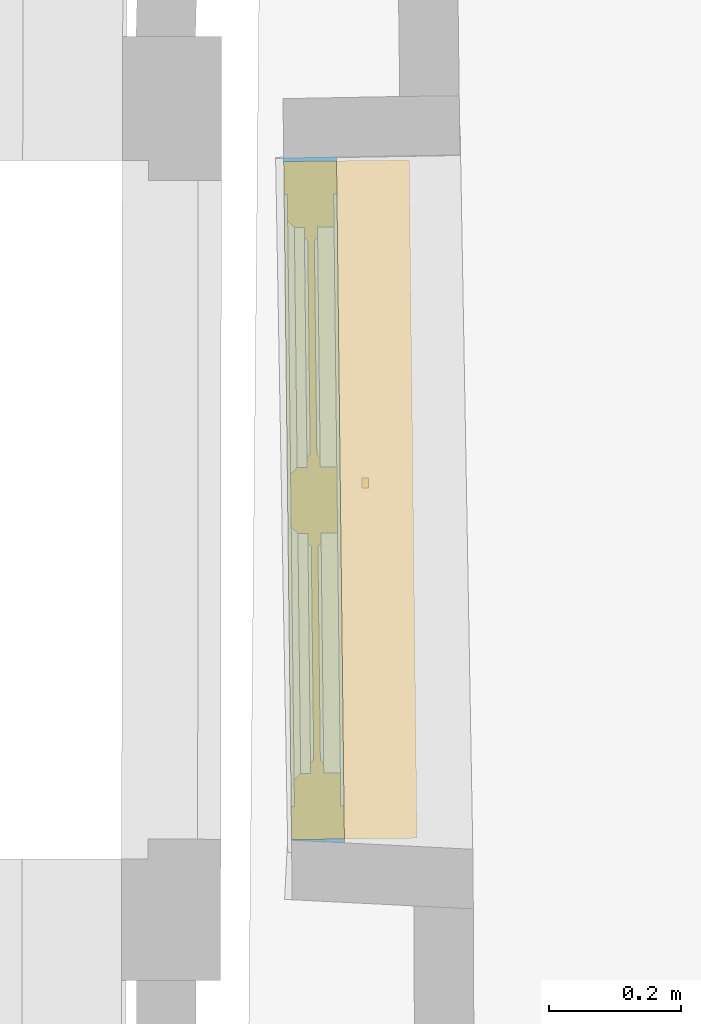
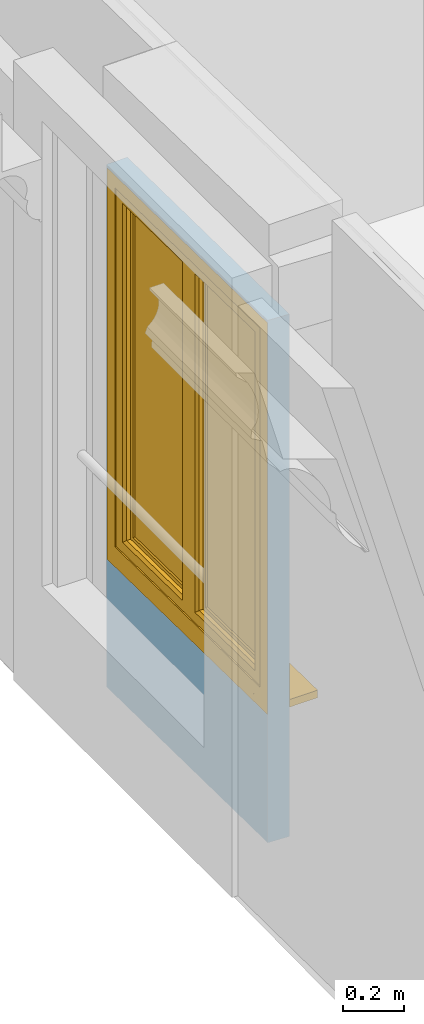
# One storey, part 48 of 72: 1 window, 1 opening, plus 1 element that does not belong to this part.
"""IFC2X3 building model written with IfcOpenShell, lengths in centimetres."""

import ifcopenshell
import ifcopenshell.guid

model = None  # the IFC model being written
_history = None  # IfcOwnerHistory: only IFC2X3 demands one
_inside = {}  # id of a spatial element -> (the spatial element, [elements in it])
_under = {}  # id of a project, library or spatial element -> (it, [spatial elements below it])
_declared = {}  # id of a project -> (the project, [libraries it declares])
_typed = {}  # id of a type object -> (the type object, [elements of that type])
_made_of = {}  # id of a material, layer set ... -> (it, [elements and type objects made of it])


def new_model(schema):
    """Start an empty IFC model of exactly this schema.

    Asked for "IFC4X3", IfcOpenShell would pick the latest addendum, in which some entities
    have other attributes; the version numbers below select the first issue.
    IFC2X3 requires an IfcOwnerHistory on every rooted entity: one is made here for all.
    """
    global model, _history
    if schema == "IFC4X3":
        model = ifcopenshell.file(schema_version=(4, 3, 0, 0))
    else:
        model = ifcopenshell.file(schema=schema)
    _inside.clear()
    _under.clear()
    _declared.clear()
    _typed.clear()
    _made_of.clear()
    _history = None
    if model.schema == "IFC2X3":
        org = make("IfcOrganization", Name="unknown")
        user = make(
            "IfcPersonAndOrganization",
            ThePerson=make("IfcPerson", FamilyName="unknown"),
            TheOrganization=org,
        )
        app = make(
            "IfcApplication",
            ApplicationDeveloper=org,
            Version="unknown",
            ApplicationFullName="unknown",
            ApplicationIdentifier="unknown",
        )
        _history = make(
            "IfcOwnerHistory",
            OwningUser=user,
            OwningApplication=app,
            ChangeAction="ADDED",
            CreationDate=0,
        )
    return model


def make(cls, **values):
    """One entity of the class cls with the attributes given. An attribute that is None is left unset."""
    return model.create_entity(
        cls, **{name: value for name, value in values.items() if value is not None}
    )


def entity(cls, *values):
    """Any entity or typed value of the class cls, its attributes in the order of the schema. None: left unset."""
    e = model.create_entity(cls)
    for i, value in enumerate(values):
        if value is not None:
            e[i] = value
    return e


def rooted(cls, **values):
    """An entity with a GlobalId (a new one), such as an element, a storey or a relation."""
    return make(cls, GlobalId=ifcopenshell.guid.new(), OwnerHistory=_history, **values)


def si_unit(unit_type, name, prefix=None):
    """IfcSIUnit, for example si_unit("LENGTHUNIT", "METRE", prefix="MILLI")."""
    return make("IfcSIUnit", UnitType=unit_type, Prefix=prefix, Name=name)


def converted_unit(unit_type, name, factor, base, dimensions=None, offset=None):
    """IfcConversionBasedUnit, such as the inch: factor (a typed value) times the base unit."""
    return make(
        "IfcConversionBasedUnit"
        if offset is None
        else "IfcConversionBasedUnitWithOffset",
        ConversionOffset=offset,
        Dimensions=None
        if dimensions is None
        else entity("IfcDimensionalExponents", *dimensions),
        UnitType=unit_type,
        Name=name,
        ConversionFactor=make(
            "IfcMeasureWithUnit", ValueComponent=factor, UnitComponent=base
        ),
    )


def assignment(units):
    """IfcUnitAssignment: the units of a project."""
    return None if units is None else make("IfcUnitAssignment", Units=units)


def point(xyz):
    """IfcCartesianPoint."""
    return None if xyz is None else make("IfcCartesianPoint", Coordinates=xyz)


def direction(xyz):
    """IfcDirection."""
    return None if xyz is None else make("IfcDirection", DirectionRatios=xyz)


def frame(location, z_axis=None, x_axis=None):
    """IfcAxis2Placement3D, a coordinate frame: its origin and axes. An axis left out is left unset."""
    return make(
        "IfcAxis2Placement3D",
        Location=point(location),
        Axis=direction(z_axis),
        RefDirection=direction(x_axis),
    )


def origin():
    """The frame at (0, 0, 0) with its axes left unset."""
    return frame((0.0, 0.0, 0.0))


def origin_with_axes():
    """The frame at (0, 0, 0) with the z axis (0, 0, 1) and the x axis (1, 0, 0) written out."""
    return frame((0.0, 0.0, 0.0), z_axis=(0.0, 0.0, 1.0), x_axis=(1.0, 0.0, 0.0))


def place(relative_to, where):
    """IfcLocalPlacement: puts the frame where relative to a parent placement (None: the world)."""
    return make(
        "IfcLocalPlacement", PlacementRelTo=relative_to, RelativePlacement=where
    )


def context(
    kind, dimensions, precision=None, world=None, true_north=None, identifier=None
):
    """IfcGeometricRepresentationContext, for example the 3D "Model" context."""
    return make(
        "IfcGeometricRepresentationContext",
        ContextIdentifier=identifier,
        ContextType=kind,
        CoordinateSpaceDimension=dimensions,
        Precision=precision,
        WorldCoordinateSystem=world,
        TrueNorth=true_north,
    )


def subcontext(parent, identifier, kind, view, scale=None):
    """IfcGeometricRepresentationSubContext, for example "Body" below "Model"."""
    return make(
        "IfcGeometricRepresentationSubContext",
        ContextIdentifier=identifier,
        ContextType=kind,
        ParentContext=parent,
        TargetScale=scale,
        TargetView=view,
    )


def project(units=None, contexts=None):
    """IfcProject with its units and contexts."""
    return rooted(
        "IfcProject",
        Name="project",
        RepresentationContexts=contexts,
        UnitsInContext=assignment(units),
    )


def spatial(cls, under=None, at=None, **own):
    """A site, building, storey or space (cls), placed at a placement, below another one or the project."""
    s = rooted(cls, ObjectPlacement=at, **own)
    if under is not None:
        _under.setdefault(under.id(), (under, []))[1].append(s)
    return s


def polyline(points):
    """IfcPolyline through the points."""
    return make("IfcPolyline", Points=[point(p) for p in points])


def outline(outer, holes=None, kind="AREA"):
    """IfcArbitraryClosedProfileDef: a profile drawn as a closed curve; with holes, ...WithVoids."""
    if holes is None:
        return make("IfcArbitraryClosedProfileDef", ProfileType=kind, OuterCurve=outer)
    return make(
        "IfcArbitraryProfileDefWithVoids",
        ProfileType=kind,
        OuterCurve=outer,
        InnerCurves=holes,
    )


def extrude(swept, where, along, depth):
    """IfcExtrudedAreaSolid: the profile swept, set in the frame where, extruded along a direction by depth."""
    return make(
        "IfcExtrudedAreaSolid",
        SweptArea=swept,
        Position=where,
        ExtrudedDirection=direction(along),
        Depth=depth,
    )


def faces_of(points, faces, orient=None, outer=None):
    """IfcFace entities. A face is a list of loops; a loop is a list of indices into points, from 0.

    orient and outer hold one flag for each loop. By default every Orientation is true, the
    first loop of a face is its IfcFaceOuterBound and the others are IfcFaceBound.
    """
    made = []
    for i, loops in enumerate(faces):
        bounds = []
        for j, loop in enumerate(loops):
            is_outer = j == 0 if outer is None else outer[i][j]
            bounds.append(
                make(
                    "IfcFaceOuterBound" if is_outer else "IfcFaceBound",
                    Bound=make("IfcPolyLoop", Polygon=[points[k] for k in loop]),
                    Orientation=True if orient is None else orient[i][j],
                )
            )
        made.append(make("IfcFace", Bounds=bounds))
    return made


def faceted_brep(points, faces, orient=None, outer=None, voids=None):
    """IfcFacetedBrep: a solid bounded by flat faces; with voids (closed shells), ...WithVoids."""
    shared = [point(p) for p in points]
    hull = make("IfcClosedShell", CfsFaces=faces_of(shared, faces, orient, outer))
    if voids is None:
        return make("IfcFacetedBrep", Outer=hull)
    return make(
        "IfcFacetedBrepWithVoids",
        Outer=hull,
        Voids=[
            make(cls, CfsFaces=faces_of(shared, fs, o, b)) for cls, fs, o, b in voids
        ],
    )


def shape(context_of_items, identifier, shape_type, items):
    """IfcShapeRepresentation: the items that make up one representation, for example the "Body"."""
    return make(
        "IfcShapeRepresentation",
        ContextOfItems=context_of_items,
        RepresentationIdentifier=identifier,
        RepresentationType=shape_type,
        Items=items,
    )


def material(Name=None, Category=None):
    """IfcMaterial."""
    return make("IfcMaterial", Name=Name, Category=Category)


def material_list(materials):
    """IfcMaterialList."""
    return make("IfcMaterialList", Materials=materials)


def layer(
    of_material, thickness, ventilated=None, Name=None, Category=None, Priority=None
):
    """IfcMaterialLayer: one layer of a wall or slab, of a material (None: an air gap)."""
    return make(
        "IfcMaterialLayer",
        Material=of_material,
        LayerThickness=thickness,
        IsVentilated=ventilated,
        Name=Name,
        Category=Category,
        Priority=Priority,
    )


def layer_set(layers, Name=None):
    """IfcMaterialLayerSet."""
    return make("IfcMaterialLayerSet", MaterialLayers=layers, LayerSetName=Name)


def layer_usage(for_layer_set, set_direction, sense, offset, extent=None):
    """IfcMaterialLayerSetUsage: how a layer set lies in its element."""
    return make(
        "IfcMaterialLayerSetUsage",
        ForLayerSet=for_layer_set,
        LayerSetDirection=set_direction,
        DirectionSense=sense,
        OffsetFromReferenceLine=offset,
        ReferenceExtent=extent,
    )


def made_of(thing, what):
    """Note that an element or type object is made of a material, layer set ...; save() writes the relation."""
    if what is not None:
        _made_of.setdefault(what.id(), (what, []))[1].append(thing)
    return thing


def type_object(cls, material=None, **own):
    """A type object (cls), such as IfcWallType, which elements share."""
    return made_of(rooted(cls, **own), material)


def element(
    cls,
    number,
    at=None,
    inside=None,
    cuts=None,
    type_object=None,
    material=None,
    context=None,
    identifier="Body",
    shape_type=None,
    held_by="IfcProductDefinitionShape",
    body=None,
    shapes=None,
    **own,
):
    """One element of the class cls, such as IfcWall. Its Tag is "e" and its number.

    at: its placement. inside: the storey or other place that contains it. cuts: it is an
    opening in that element (IfcRelVoidsElement). A single representation is given by context,
    identifier, shape_type and body (its items); several are given by shapes. held_by: the class
    of the entity that holds the representations. save() writes the other relations.
    """
    e = rooted(cls, Tag="e%d" % number, ObjectPlacement=at, **own)
    if body is not None:
        shapes = [shape(context, identifier, shape_type, body)]
    if shapes is not None:
        e.Representation = make(held_by, Representations=shapes)
    if inside is not None:
        _inside.setdefault(inside.id(), (inside, []))[1].append(e)
    if cuts is not None:
        rooted(
            "IfcRelVoidsElement", RelatingBuildingElement=cuts, RelatedOpeningElement=e
        )
    if type_object is not None:
        _typed.setdefault(type_object.id(), (type_object, []))[1].append(e)
    return made_of(e, material)


def fill(opening, filler):
    """IfcRelFillsElement: the door or window that sits in an opening."""
    return rooted(
        "IfcRelFillsElement",
        RelatingOpeningElement=opening,
        RelatedBuildingElement=filler,
    )


def aggregate(whole, parts):
    """IfcRelAggregates: a whole, such as a stair, and the parts it consists of."""
    return rooted("IfcRelAggregates", RelatingObject=whole, RelatedObjects=parts)


def save(model, path):
    """Write the relations noted so far, then the file.

    IfcRelAggregates (storeys below a building ...), IfcRelContainedInSpatialStructure (elements
    in a storey), IfcRelDefinesByType, IfcRelAssociatesMaterial and IfcRelDeclares: one each for
    every whole, place, type object, material and project.
    """
    for whole, parts in _under.values():
        aggregate(whole, parts)
    for where, things in _inside.values():
        rooted(
            "IfcRelContainedInSpatialStructure",
            RelatedElements=things,
            RelatingStructure=where,
        )
    for kind, things in _typed.values():
        rooted("IfcRelDefinesByType", RelatedObjects=things, RelatingType=kind)
    for what, things in _made_of.values():
        rooted("IfcRelAssociatesMaterial", RelatedObjects=things, RelatingMaterial=what)
    for by, libraries in _declared.values():
        rooted("IfcRelDeclares", RelatingContext=by, RelatedDefinitions=libraries)
    model.write(path)


model = new_model("IFC2X3")

# Units and contexts
model_context = context("Model", 3, precision=0.0001, world=origin(), true_north=direction((0.225632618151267, 0.974212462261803, 0.0)))
body_context = subcontext(model_context, "Body", "Model", "MODEL_VIEW")
footprint_context = subcontext(model_context, "FootPrint", "Model", "MODEL_VIEW")
profile_context = subcontext(model_context, "Profile", "Model", "MODEL_VIEW")
ifc_project = project(units=[si_unit("LENGTHUNIT", "METRE", prefix="CENTI"), si_unit("AREAUNIT", "SQUARE_METRE", prefix="CENTI"), si_unit("VOLUMEUNIT", "CUBIC_METRE", prefix="CENTI"), converted_unit("PLANEANGLEUNIT", "DEGREE", entity("IfcRatioMeasure", 0.0174532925), si_unit("PLANEANGLEUNIT", "RADIAN"), dimensions=[0, 0, 0, 0, 0, 0, 0])], contexts=[model_context])

# Site, building, storey
site_placement = place(None, origin_with_axes())
site = spatial("IfcSite", under=ifc_project, at=site_placement, Name="Default Site", CompositionType="ELEMENT")
building_placement = place(site_placement, origin_with_axes())
building = spatial("IfcBuilding", under=site, at=building_placement, Name="Default Building", CompositionType="ELEMENT")
storey_placement = place(building_placement, frame((0.0, 0.0, 853.910374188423), z_axis=(0.0, 0.0, 1.0), x_axis=(1.0, 0.0, 0.0)))
storey = spatial("IfcBuildingStorey", under=building, at=storey_placement, Name="Niveau 2", CompositionType="ELEMENT", Elevation=853.910374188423)

# Wall, opening, window
ifc_material_1 = material(Name="<aucun>")
ifc_layer = layer(ifc_material_1, 8.0)
ifc_layer_set = layer_set([ifc_layer], Name="default")
ifc_layer_usage = layer_usage(ifc_layer_set, "AXIS2", "POSITIVE", -4.0)
wall_type = type_object("IfcWallType", Name="default 80", PredefinedType="NOTDEFINED", material=ifc_layer_set)
wall_placement = place(storey_placement, frame((-1230.09944042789, 409.144526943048, 1.4210854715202e-12), z_axis=(0.0, 0.0, 1.0), x_axis=(-0.0115145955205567, 0.999933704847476, 0.0)))
wall = element("IfcWallStandardCase", 1, at=wall_placement, inside=storey, type_object=wall_type, material=ifc_layer_usage, Name="Enveloppe 170861", context=body_context, shape_type="SweptSolid", body=[
    extrude(outline(polyline([(103.241770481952, 4.00000000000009), (0.0, 4.00000000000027), (-0.490794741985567, -3.99999999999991), (103.299633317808, -4.00000000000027), (103.241770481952, 4.00000000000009)])), origin_with_axes(), (0.0, 0.0, 1.0), 208.0),
])
opening_placement = place(wall_placement, frame((0.0895585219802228, 0.0, 53.9999999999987), z_axis=(0.0, 0.0, 1.0), x_axis=(-1.0, 4.50334214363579e-15, 0.0)))
cartesian_point_1 = entity("IfcCartesianPoint", [0.0, 0.0, 153.0])
cartesian_point_2 = entity("IfcCartesianPoint", [-102.647776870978, -4.00000000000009])
opening = element("IfcOpeningElement", 2, at=opening_placement, cuts=wall, Name="4294966523_11", ObjectType="Opening", shapes=[
    shape(body_context, "Body", "SweptSolid", [extrude(outline(polyline([(8.88178419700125e-14, 153.0), (8.88178419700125e-14, -3.00000000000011), (102.647776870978, -3.00000000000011), (102.647776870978, 153.0), (8.88178419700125e-14, 153.0)])), frame((0.0, -14.0, 0.0), z_axis=(0.0, 1.0, 0.0), x_axis=(-1.0, 0.0, 0.0)), (0.0, 0.0, 1.0), 28.0)]),
    shape(profile_context, "Profile", "GeometricCurveSet", [entity("IfcGeometricCurveSet", [entity("IfcPolyline", [cartesian_point_1, entity("IfcCartesianPoint", [0.0, 0.0, -1.77635683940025e-13]), entity("IfcCartesianPoint", [-102.647776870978, -1.77635683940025e-13, -1.77635683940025e-13]), entity("IfcCartesianPoint", [-102.647776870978, -1.77635683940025e-13, 153.0]), cartesian_point_1])])]),
    shape(footprint_context, "FootPrint", "GeometricCurveSet", [entity("IfcGeometricCurveSet", [entity("IfcPolyline", [cartesian_point_2, entity("IfcCartesianPoint", [-8.88178419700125e-14, -4.00000000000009]), entity("IfcCartesianPoint", [-8.88178419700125e-14, 3.99999999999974]), entity("IfcCartesianPoint", [-102.647776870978, 3.99999999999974]), cartesian_point_2])])]),
])
ifc_material_2 = material(Name="Transparent")
ifc_material_3 = material(Name="Bleu france")
ifc_material_4 = material(Name="Brèche oniciata")
ifc_material_5 = material(Name="Aluminium satiné")
ifc_material_list = material_list([ifc_material_2, ifc_material_3, ifc_material_4, ifc_material_5])
window_style = type_object("IfcWindowStyle", Name="FN[R] 2VB[1V] MM", ConstructionType="NOTDEFINED", OperationType="DOUBLE_PANEL_VERTICAL", ParameterTakesPrecedence=True, Sizeable=False, material=ifc_material_list)
window_placement = place(opening_placement, frame((-102.647776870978, -4.00000000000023, -7.105427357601e-15), z_axis=(0.0, 0.0, 1.0), x_axis=(1.0, 0.0, 0.0)))
window = element("IfcWindow", 3, at=window_placement, inside=storey, type_object=window_style, material=ifc_material_list, Name="Fenêtre 171997", OverallHeight=153.0, OverallWidth=102.647776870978, context=body_context, shape_type="Brep", body=[
    faceted_brep([(-1.56433159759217e-06, 1.91187014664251e-05, -2.7203559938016e-05), (102.647765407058, -3.98226472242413e-05, -2.7203559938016e-05), (102.647757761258, 8.00000616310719, -2.7203559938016e-05), (102.647770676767, 19.0000333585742, -2.7203559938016e-05), (2.60725947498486e-06, 18.9999969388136, -2.7203559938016e-05), (-1.03082488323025e-05, 7.99996974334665, -2.7203559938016e-05), (-1.03082488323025e-05, 7.99996974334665, -3.00000050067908), (2.60725947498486e-06, 18.9999969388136, -3.00000050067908), (102.647770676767, 19.0000333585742, -3.00000050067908), (102.647757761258, 8.00000616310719, -3.00000050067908), (102.647765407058, -3.98226472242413e-05, -3.00000050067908), (-1.56433159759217e-06, 1.91187014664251e-05, -3.00000050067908), (-1.03084567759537e-05, 18.9999969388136, -2.7203559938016e-05), (-1.03084567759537e-05, 18.9999969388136, -3.00000050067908), (102.647770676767, 18.9999969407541, -2.7203559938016e-05), (102.647770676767, 18.9999969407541, -3.00000050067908), (102.647770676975, 8.00000616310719, -2.7203559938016e-05), (102.647770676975, 8.00000616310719, -3.00000050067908), (102.64775776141, -3.98226472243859e-05, -2.7203559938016e-05), (102.64775776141, -3.98226472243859e-05, -3.00000050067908), (-1.56433159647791e-06, -3.98245876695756e-05, -2.7203559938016e-05), (-1.56433159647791e-06, -3.98245876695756e-05, -3.00000050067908), (-1.56448282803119e-06, 7.99996974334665, -2.7203559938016e-05), (-1.56448282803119e-06, 7.99996974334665, -3.00000050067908)], [[[0, 1, 2, 3, 4, 5]], [[6, 7, 8, 9, 10, 11]], [[5, 12, 13, 6]], [[4, 14, 15, 7]], [[3, 16, 17, 8]], [[2, 18, 19, 9]], [[1, 20, 21, 10]], [[0, 22, 23, 11]]]),
    faceted_brep([(97.6477779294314, 8.94068818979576e-08, 148.000001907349), (97.6477779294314, 7.99999991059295, 148.000001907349), (97.6477779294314, 7.99999991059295, 5.00000007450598), (97.6477779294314, 8.94068818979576e-08, 5.00000007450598), (102.647779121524, 7.99999991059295, 152.999997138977), (102.647779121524, 7.99999991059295, 3.5527136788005e-13), (102.647779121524, 8.94068818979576e-08, 152.999997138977), (102.647779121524, 8.94068818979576e-08, 3.5527136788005e-13), (4.99999894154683, 7.99999991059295, 5.00000007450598), (4.99999894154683, 8.94068818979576e-08, 5.00000007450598), (-2.25054606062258e-06, 7.99999991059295, 3.5527136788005e-13), (-2.25054606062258e-06, 8.94068818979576e-08, 3.5527136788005e-13), (4.99999894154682, 7.99999991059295, 148.000001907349), (4.99999894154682, 8.94068818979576e-08, 148.000001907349), (-2.25054606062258e-06, 7.99999991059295, 152.999997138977), (4.99999894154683, 7.99999991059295, 148.000001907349), (-2.25054606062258e-06, 8.94068818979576e-08, 152.999997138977), (4.99999894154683, 8.94068818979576e-08, 148.000001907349)], [[[0, 1, 2, 3]], [[1, 4, 5, 2]], [[4, 6, 7, 5]], [[6, 0, 3, 7]], [[3, 2, 8, 9]], [[2, 5, 10, 8]], [[5, 7, 11, 10]], [[7, 3, 9, 11]], [[9, 8, 12, 13]], [[8, 10, 14, 15]], [[10, 11, 16, 14]], [[11, 9, 17, 16]], [[17, 15, 1, 0]], [[15, 14, 4, 1]], [[14, 16, 6, 4]], [[16, 17, 0, 6]]]),
    faceted_brep([(93.6477757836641, 0.499999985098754, 144.000005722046), (92.6477762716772, 1.49999949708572, 142.999994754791), (92.6477762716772, 1.49999949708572, 10.0000001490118), (93.6477757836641, 0.499999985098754, 9.00000035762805), (92.6477767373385, 1.49999996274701, 142.999994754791), (92.6477767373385, 7.50000001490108, 142.999994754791), (92.6477767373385, 7.50000001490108, 10.0000001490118), (92.6477767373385, 1.49999996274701, 10.0000001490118), (97.6477779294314, 7.50000001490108, 148.000001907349), (97.6477779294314, 7.50000001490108, 5.00000007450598), (97.6477779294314, 0.499999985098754, 148.000001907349), (97.6477779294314, 0.499999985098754, 5.00000007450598), (92.6477767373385, 1.49999986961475, 10.000000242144), (56.3238885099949, 1.49999986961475, 10.0000002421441), (55.3238883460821, 0.499999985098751, 9.00000035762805), (56.3238885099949, 7.50000001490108, 10.0000001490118), (56.3238885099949, 1.49999996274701, 10.0000001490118), (51.3238884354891, 7.50000001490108, 5.00000007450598), (51.3238884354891, 0.499999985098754, 5.00000007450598), (55.3238883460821, 0.499999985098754, 9.00000035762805), (56.3238884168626, 1.50000005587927, 10.0000001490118), (56.3238884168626, 1.50000005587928, 142.999994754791), (55.3238883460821, 0.499999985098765, 144.000005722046), (56.3238885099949, 7.50000001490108, 142.999994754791), (56.3238885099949, 1.49999996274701, 142.999994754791), (51.323888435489, 7.50000001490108, 148.000001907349), (51.323888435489, 0.499999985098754, 148.000001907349), (55.3238883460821, 0.499999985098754, 144.000005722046), (56.3238885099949, 1.50000545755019, 143.000000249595), (92.6477767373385, 1.50000545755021, 143.000000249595)], [[[0, 1, 2, 3]], [[4, 5, 6, 7]], [[5, 8, 9, 6]], [[8, 10, 11, 9]], [[10, 0, 3, 11]], [[3, 12, 13, 14]], [[7, 6, 15, 16]], [[6, 9, 17, 15]], [[9, 11, 18, 17]], [[11, 3, 19, 18]], [[19, 20, 21, 22]], [[16, 15, 23, 24]], [[15, 17, 25, 23]], [[17, 18, 26, 25]], [[18, 19, 27, 26]], [[27, 28, 29, 0]], [[24, 23, 5, 4]], [[23, 25, 8, 5]], [[25, 26, 10, 8]], [[26, 27, 0, 10]]]),
    faceted_brep([(91.1477781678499, 3.00000002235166, 141.499996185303), (90.6477769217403, 3.50000126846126, 140.99999666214), (90.6477769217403, 3.50000126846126, 11.9999997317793), (91.1477781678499, 3.00000002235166, 11.5000002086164), (90.6477756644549, 3.50000001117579, 140.99999666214), (90.6477756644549, 4.49999998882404, 140.99999666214), (90.6477756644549, 4.49999998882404, 11.9999997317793), (90.6477756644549, 3.50000001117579, 11.9999997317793), (91.1477769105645, 5.00000123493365, 141.499996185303), (91.1477769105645, 5.00000123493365, 11.5000002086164), (91.1477781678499, 4.99999997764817, 141.499996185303), (92.6477767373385, 4.99999997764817, 142.999994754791), (92.6477767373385, 4.99999997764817, 10.0000001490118), (91.1477781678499, 4.99999997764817, 11.5000002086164), (92.6477767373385, 3.00000002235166, 142.999994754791), (92.6477767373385, 3.00000002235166, 10.0000001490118), (90.6477756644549, 3.49999977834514, 11.9999999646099), (58.3238884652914, 3.49999977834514, 11.9999999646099), (57.8238881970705, 3.00000002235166, 11.5000002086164), (58.3238884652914, 4.49999998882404, 11.9999997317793), (58.3238884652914, 3.50000001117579, 11.9999997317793), (91.1477781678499, 4.99999974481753, 11.4999999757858), (57.8238881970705, 4.99999974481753, 11.4999999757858), (56.3238885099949, 4.99999997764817, 10.0000001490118), (57.8238881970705, 4.99999997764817, 11.5000002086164), (56.3238885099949, 3.00000002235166, 10.0000001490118), (58.323888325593, 3.50000015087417, 11.9999997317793), (58.323888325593, 3.50000015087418, 140.99999666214), (57.8238881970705, 3.00000002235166, 141.499996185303), (58.3238884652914, 4.49999998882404, 140.99999666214), (58.3238884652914, 3.50000001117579, 140.99999666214), (57.8238883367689, 5.00000011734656, 11.5000002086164), (57.8238883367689, 5.00000011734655, 141.499996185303), (58.3238884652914, 4.49999998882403, 140.99999666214), (56.3238885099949, 4.99999997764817, 142.999994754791), (57.8238881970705, 4.99999997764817, 141.499996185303), (56.3238885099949, 3.00000002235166, 142.999994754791), (58.3238884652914, 3.49999977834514, 140.999996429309), (90.6477756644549, 3.49999977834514, 140.999996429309), (57.8238881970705, 4.99999974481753, 141.499996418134), (91.1477781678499, 4.99999974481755, 141.499996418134), (90.6477756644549, 4.49999998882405, 140.99999666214)], [[[0, 1, 2, 3]], [[4, 5, 6, 7]], [[5, 8, 9, 6]], [[10, 11, 12, 13]], [[11, 14, 15, 12]], [[14, 0, 3, 15]], [[3, 16, 17, 18]], [[7, 6, 19, 20]], [[6, 21, 22, 19]], [[13, 12, 23, 24]], [[12, 15, 25, 23]], [[15, 3, 18, 25]], [[18, 26, 27, 28]], [[20, 19, 29, 30]], [[19, 31, 32, 33]], [[24, 23, 34, 35]], [[23, 25, 36, 34]], [[25, 18, 28, 36]], [[28, 37, 38, 0]], [[30, 29, 5, 4]], [[29, 39, 40, 41]], [[35, 34, 11, 10]], [[34, 36, 14, 11]], [[36, 28, 0, 14]]]),
    faceted_brep([(58.3238884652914, 3.50000001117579, 140.99999666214), (58.3238884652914, 3.50000001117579, 11.9999997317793), (90.6477756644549, 3.50000001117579, 11.9999997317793), (90.6477756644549, 3.50000001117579, 140.99999666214), (90.6477756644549, 4.49999998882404, 140.99999666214), (90.6477756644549, 4.49999998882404, 11.9999997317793), (58.3238884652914, 4.49999998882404, 11.9999997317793), (58.3238884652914, 4.49999998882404, 140.99999666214)], [[[0, 1, 2, 3]], [[4, 5, 6, 7]], [[3, 2, 5, 4]], [[2, 1, 6, 5]], [[1, 0, 7, 6]], [[0, 3, 4, 7]]]),
    faceted_brep([(47.3238885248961, 0.499999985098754, 144.000005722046), (46.3238884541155, 1.50000005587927, 142.999994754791), (46.3238884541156, 1.50000005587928, 10.0000001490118), (47.3238885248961, 0.499999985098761, 9.00000035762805), (46.3238883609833, 1.49999996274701, 142.999994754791), (46.3238883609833, 7.50000001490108, 142.999994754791), (46.3238883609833, 7.50000001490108, 10.0000001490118), (46.3238883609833, 1.49999996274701, 10.0000001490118), (51.323888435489, 7.50000001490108, 148.000001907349), (51.3238884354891, 7.50000001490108, 5.00000007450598), (51.323888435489, 0.499999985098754, 148.000001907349), (51.3238884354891, 0.499999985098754, 5.00000007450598), (47.3238885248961, 0.499999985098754, 9.00000035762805), (46.3238883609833, 1.49999986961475, 10.000000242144), (10.0000001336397, 1.49999986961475, 10.0000002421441), (9.00000108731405, 0.499999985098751, 9.00000035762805), (10.0000001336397, 7.50000001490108, 10.0000001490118), (10.0000001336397, 1.49999996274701, 10.0000001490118), (4.99999894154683, 7.50000001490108, 5.00000007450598), (4.99999894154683, 0.499999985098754, 5.00000007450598), (9.00000108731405, 0.499999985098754, 9.00000035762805), (10.000000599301, 1.49999949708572, 10.0000001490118), (10.000000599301, 1.49999949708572, 142.999994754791), (9.00000108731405, 0.499999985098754, 144.000005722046), (10.0000001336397, 7.50000001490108, 142.999994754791), (10.0000001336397, 1.49999996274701, 142.999994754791), (4.99999894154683, 7.50000001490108, 148.000001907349), (4.99999894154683, 0.499999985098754, 148.000001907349), (10.0000001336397, 1.50000545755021, 143.000000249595), (46.3238883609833, 1.50000545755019, 143.000000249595)], [[[0, 1, 2, 3]], [[4, 5, 6, 7]], [[5, 8, 9, 6]], [[8, 10, 11, 9]], [[10, 0, 12, 11]], [[12, 13, 14, 15]], [[7, 6, 16, 17]], [[6, 9, 18, 16]], [[9, 11, 19, 18]], [[11, 12, 20, 19]], [[20, 21, 22, 23]], [[17, 16, 24, 25]], [[16, 18, 26, 24]], [[18, 19, 27, 26]], [[19, 20, 23, 27]], [[23, 28, 29, 0]], [[25, 24, 5, 4]], [[24, 26, 8, 5]], [[26, 27, 10, 8]], [[27, 23, 0, 10]]]),
    faceted_brep([(46.8238882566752, 7.50000001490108, 78.5000026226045), (46.8238882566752, 7.50000001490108, 74.5000004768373), (50.823888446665, 7.50000001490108, 74.5000004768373), (50.823888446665, 7.50000001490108, 78.5000026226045), (50.823888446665, 8.30000014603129, 78.5000026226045), (50.823888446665, 8.30000014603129, 74.5000004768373), (46.8238882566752, 8.30000014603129, 74.5000004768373), (46.8238882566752, 8.30000014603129, 78.5000026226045)], [[[0, 1, 2, 3]], [[4, 5, 6, 7]], [[3, 2, 5, 4]], [[2, 1, 6, 5]], [[1, 0, 7, 6]], [[0, 3, 4, 7]]]),
    faceted_brep([(48.0738885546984, 8.30000014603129, 76.9999980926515), (48.0738885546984, 8.30000014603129, 75.9999990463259), (49.5738884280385, 8.30000014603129, 75.9999990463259), (49.5738884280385, 8.30000014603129, 76.9999980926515), (49.5738884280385, 12.2999996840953, 76.9999980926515), (49.5738884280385, 11.3000002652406, 75.9999986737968), (48.0738885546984, 11.3000002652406, 75.9999986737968), (48.0738885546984, 12.2999996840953, 76.9999980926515), (49.5738884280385, 11.2999998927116, 75.9999990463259), (48.0738885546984, 11.2999998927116, 75.9999990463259)], [[[0, 1, 2, 3]], [[4, 5, 6, 7]], [[3, 2, 8, 4]], [[2, 1, 9, 8]], [[1, 0, 7, 9]], [[0, 3, 4, 7]]]),
    faceted_brep([(48.0738885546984, 12.2999996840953, 76.9999980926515), (48.0738885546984, 11.3000002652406, 75.9999986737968), (49.5738884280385, 11.3000002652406, 75.9999986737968), (49.5738884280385, 12.2999996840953, 76.9999980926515), (49.5738884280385, 12.2999996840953, 63.9999985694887), (49.5738884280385, 11.2999998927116, 63.9999985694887), (48.0738885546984, 11.2999998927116, 63.9999985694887), (48.0738885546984, 12.2999996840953, 63.9999985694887), (49.5738884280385, 11.2999998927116, 75.9999990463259), (48.0738885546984, 11.2999998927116, 75.9999990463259)], [[[0, 1, 2, 3]], [[4, 5, 6, 7]], [[3, 8, 5, 4]], [[8, 9, 6, 5]], [[9, 0, 7, 6]], [[0, 3, 4, 7]]]),
    faceted_brep([(44.8238886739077, 3.00000002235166, 141.499996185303), (44.3238885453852, 3.50000015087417, 140.99999666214), (44.3238885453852, 3.50000015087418, 11.9999997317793), (44.8238886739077, 3.00000002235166, 11.5000002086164), (44.3238884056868, 3.50000001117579, 140.99999666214), (44.3238884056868, 4.49999998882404, 140.99999666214), (44.3238884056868, 4.49999998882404, 11.9999997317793), (44.3238884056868, 3.50000001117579, 11.9999997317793), (44.8238885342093, 5.00000011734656, 141.499996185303), (44.8238885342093, 5.00000011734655, 11.5000002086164), (44.8238886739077, 4.99999997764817, 141.499996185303), (46.3238883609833, 4.99999997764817, 142.999994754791), (46.3238883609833, 4.99999997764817, 10.0000001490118), (44.8238886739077, 4.99999997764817, 11.5000002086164), (46.3238883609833, 3.00000002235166, 142.999994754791), (46.3238883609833, 3.00000002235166, 10.0000001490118), (44.3238884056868, 3.49999977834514, 11.9999999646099), (12.0000012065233, 3.49999977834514, 11.9999999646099), (11.4999987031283, 3.00000002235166, 11.5000002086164), (12.0000012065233, 4.49999998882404, 11.9999997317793), (12.0000012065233, 3.50000001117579, 11.9999997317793), (44.8238886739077, 4.99999974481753, 11.4999999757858), (11.4999987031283, 4.99999974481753, 11.4999999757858), (10.0000001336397, 4.99999997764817, 10.0000001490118), (11.4999987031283, 4.99999997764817, 11.5000002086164), (10.0000001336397, 3.00000002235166, 10.0000001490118), (11.9999999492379, 3.50000126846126, 11.9999997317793), (11.9999999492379, 3.50000126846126, 140.99999666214), (11.4999987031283, 3.00000002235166, 141.499996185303), (12.0000012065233, 4.49999998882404, 140.99999666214), (12.0000012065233, 3.50000001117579, 140.99999666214), (11.4999999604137, 5.00000123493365, 11.5000002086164), (11.4999999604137, 5.00000123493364, 141.499996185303), (12.0000012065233, 4.49999998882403, 140.99999666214), (10.0000001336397, 4.99999997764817, 142.999994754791), (11.4999987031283, 4.99999997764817, 141.499996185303), (10.0000001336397, 3.00000002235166, 142.999994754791), (12.0000012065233, 3.49999977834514, 140.999996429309), (44.3238884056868, 3.49999977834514, 140.999996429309), (11.4999987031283, 4.99999974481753, 141.499996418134), (44.8238886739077, 4.99999974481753, 141.499996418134)], [[[0, 1, 2, 3]], [[4, 5, 6, 7]], [[5, 8, 9, 6]], [[10, 11, 12, 13]], [[11, 14, 15, 12]], [[14, 0, 3, 15]], [[3, 16, 17, 18]], [[7, 6, 19, 20]], [[6, 21, 22, 19]], [[13, 12, 23, 24]], [[12, 15, 25, 23]], [[15, 3, 18, 25]], [[18, 26, 27, 28]], [[20, 19, 29, 30]], [[19, 31, 32, 33]], [[24, 23, 34, 35]], [[23, 25, 36, 34]], [[25, 18, 28, 36]], [[28, 37, 38, 0]], [[30, 29, 5, 4]], [[29, 39, 40, 5]], [[35, 34, 11, 10]], [[34, 36, 14, 11]], [[36, 28, 0, 14]]]),
    faceted_brep([(12.0000012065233, 3.50000001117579, 140.99999666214), (12.0000012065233, 3.50000001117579, 11.9999997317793), (44.3238884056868, 3.50000001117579, 11.9999997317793), (44.3238884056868, 3.50000001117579, 140.99999666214), (44.3238884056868, 4.49999998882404, 140.99999666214), (44.3238884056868, 4.49999998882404, 11.9999997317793), (12.0000012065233, 4.49999998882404, 11.9999997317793), (12.0000012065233, 4.49999998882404, 140.99999666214)], [[[0, 1, 2, 3]], [[4, 5, 6, 7]], [[3, 2, 5, 4]], [[2, 1, 6, 5]], [[1, 0, 7, 6]], [[0, 3, 4, 7]]]),
])
fill(opening, window)

save(model, "model.ifc")
